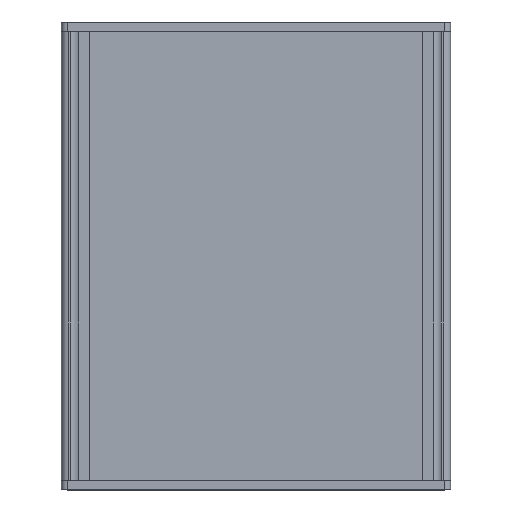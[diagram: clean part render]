
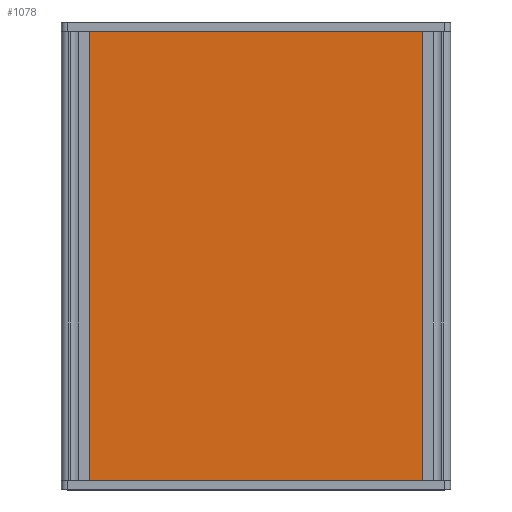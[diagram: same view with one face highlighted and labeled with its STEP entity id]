
A CAD part, top view. The second image highlights one B-rep face of the part: STEP entity #1078.
In plain terms, the highlighted planar face has unit normal (0, 0, 1).
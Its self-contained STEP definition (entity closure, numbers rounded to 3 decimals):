
#73 = DIRECTION ( 'NONE',  ( 0., -1., 0. ) ) ;
#177 = DIRECTION ( 'NONE',  ( -1., 0., 0. ) ) ;
#211 = CARTESIAN_POINT ( 'NONE',  ( -46.5, 120., 43.95 ) ) ;
#362 = CARTESIAN_POINT ( 'NONE',  ( 46.5, 213.025, 43.95 ) ) ;
#600 = VERTEX_POINT ( 'NONE', #2243 ) ;
#617 = LINE ( 'NONE', #362, #1402 ) ;
#944 = EDGE_CURVE ( 'NONE', #2554, #3142, #3342, .T. ) ;
#1078 = ADVANCED_FACE ( 'NONE', ( #1324 ), #1880, .T. ) ;
#1272 = VERTEX_POINT ( 'NONE', #1681 ) ;
#1324 = FACE_OUTER_BOUND ( 'NONE', #3653, .T. ) ;
#1402 = VECTOR ( 'NONE', #3583, 1000. ) ;
#1414 = LINE ( 'NONE', #3008, #2877 ) ;
#1602 = EDGE_CURVE ( 'NONE', #1272, #600, #617, .T. ) ;
#1653 = CARTESIAN_POINT ( 'NONE',  ( -46.5, 0., 43.95 ) ) ;
#1681 = CARTESIAN_POINT ( 'NONE',  ( 46.5, 120., 43.95 ) ) ;
#1695 = VECTOR ( 'NONE', #73, 1000. ) ;
#1880 = PLANE ( 'NONE',  #3629 ) ;
#1895 = DIRECTION ( 'NONE',  ( 1., 0., 0. ) ) ;
#1995 = CARTESIAN_POINT ( 'NONE',  ( -46.5, 0., 43.95 ) ) ;
#2222 = ORIENTED_EDGE ( 'NONE', *, *, #3599, .F. ) ;
#2243 = CARTESIAN_POINT ( 'NONE',  ( 46.5, 0., 43.95 ) ) ;
#2432 = DIRECTION ( 'NONE',  ( -1., 0., 0. ) ) ;
#2554 = VERTEX_POINT ( 'NONE', #211 ) ;
#2653 = LINE ( 'NONE', #1653, #3242 ) ;
#2718 = ORIENTED_EDGE ( 'NONE', *, *, #3256, .T. ) ;
#2877 = VECTOR ( 'NONE', #2432, 1000. ) ;
#3006 = CARTESIAN_POINT ( 'NONE',  ( -46.5, 213.025, 43.95 ) ) ;
#3008 = CARTESIAN_POINT ( 'NONE',  ( -46.5, 120., 43.95 ) ) ;
#3142 = VERTEX_POINT ( 'NONE', #1995 ) ;
#3242 = VECTOR ( 'NONE', #177, 1000. ) ;
#3256 = EDGE_CURVE ( 'NONE', #1272, #2554, #1414, .T. ) ;
#3271 = ORIENTED_EDGE ( 'NONE', *, *, #1602, .F. ) ;
#3342 = LINE ( 'NONE', #3006, #1695 ) ;
#3355 = CARTESIAN_POINT ( 'NONE',  ( -46.5, 213.025, 43.95 ) ) ;
#3583 = DIRECTION ( 'NONE',  ( 0., -1., 0. ) ) ;
#3599 = EDGE_CURVE ( 'NONE', #600, #3142, #2653, .T. ) ;
#3629 = AXIS2_PLACEMENT_3D ( 'NONE', #3355, #3646, #1895 ) ;
#3646 = DIRECTION ( 'NONE',  ( 0., 0., 1. ) ) ;
#3653 = EDGE_LOOP ( 'NONE', ( #3271, #2718, #3691, #2222 ) ) ;
#3691 = ORIENTED_EDGE ( 'NONE', *, *, #944, .T. ) ;
